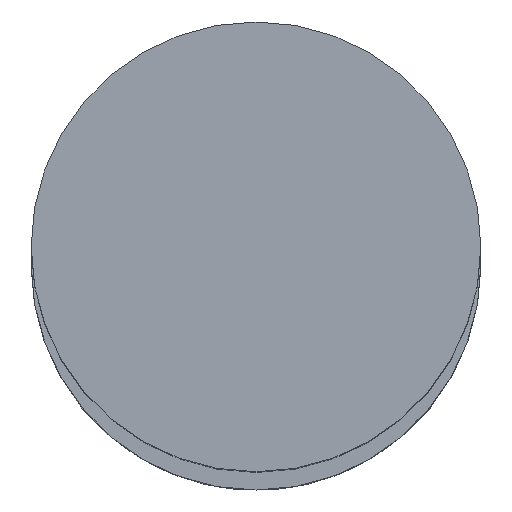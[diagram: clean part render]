
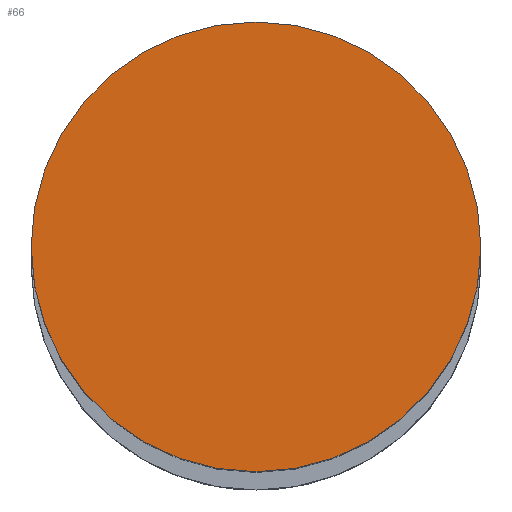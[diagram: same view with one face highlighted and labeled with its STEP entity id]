
A CAD part, top view. The second image highlights one B-rep face of the part: STEP entity #66.
In plain terms, the highlighted planar face has unit normal (0, 0, 1).
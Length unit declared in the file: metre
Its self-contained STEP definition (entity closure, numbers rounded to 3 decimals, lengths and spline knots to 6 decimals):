
#66=ADVANCED_FACE('0:129',(#145),#146,.T.);
#145=FACE_OUTER_BOUND('',#247,.T.);
#146=PLANE('',#248);
#247=EDGE_LOOP('',(#346,#347));
#248=AXIS2_PLACEMENT_3D('',#348,#349,#350);
#346=ORIENTED_EDGE('',*,*,#562,.F.);
#347=ORIENTED_EDGE('',*,*,#563,.F.);
#348=CARTESIAN_POINT('',(0.,0.,0.3));
#349=DIRECTION('',(0.0,0.0,1.0));
#350=DIRECTION('',(1.0,0.0,0.0));
#562=EDGE_CURVE('',#660,#661,#662,.F.);
#563=EDGE_CURVE('',#661,#660,#663,.F.);
#660=VERTEX_POINT('',#800);
#661=VERTEX_POINT('',#801);
#662=CIRCLE('',#802,0.008);
#663=CIRCLE('',#803,0.008);
#800=CARTESIAN_POINT('',(-0.00811,0.000133,0.3));
#801=CARTESIAN_POINT('',(0.00789,0.000133,0.3));
#802=AXIS2_PLACEMENT_3D('',#956,#957,#958);
#803=AXIS2_PLACEMENT_3D('',#959,#960,#961);
#956=CARTESIAN_POINT('',(-0.00011,0.000133,0.3));
#957=DIRECTION('',(0.0,0.0,1.0));
#958=DIRECTION('',(1.0,0.0,0.0));
#959=CARTESIAN_POINT('',(-0.00011,0.000133,0.3));
#960=DIRECTION('',(0.0,0.0,1.0));
#961=DIRECTION('',(1.0,0.0,0.0));
